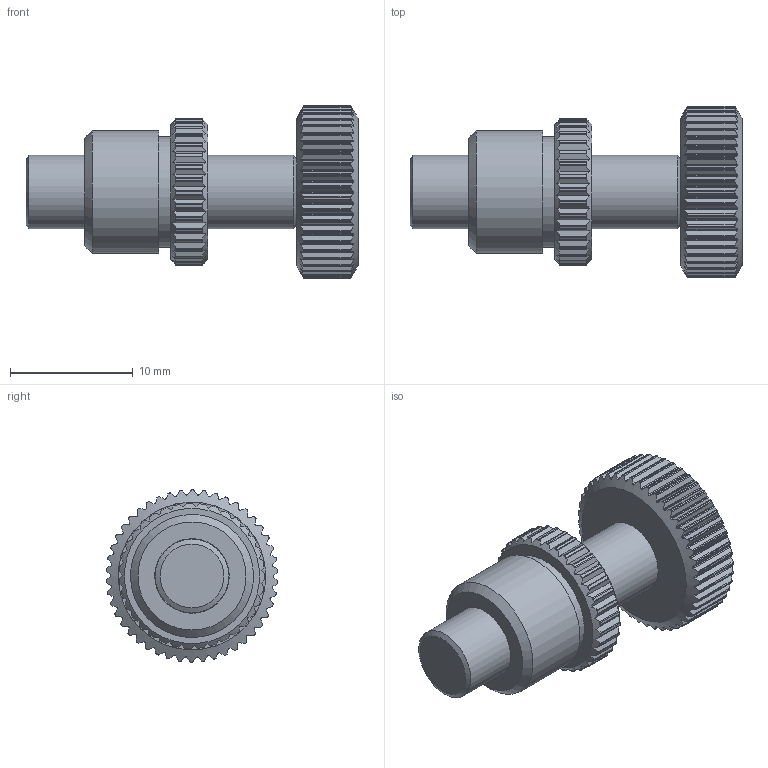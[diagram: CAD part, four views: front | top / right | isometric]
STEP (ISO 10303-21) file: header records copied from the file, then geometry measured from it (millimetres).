
FILE_DESCRIPTION(/* description */ (''),/* implementation_level */ '2;1');
FILE_NAME(/* name */ 'U:\KONSTRUKTORIAI\DOKUMENTACIJA\9\9S127BM\step\9S127BM-10.stp',/* time_stamp */ '2017-02-27T10:05:00+02:00',/* author */ ('dsgn33'),/* organization */ (''),/* preprocessor_version */ 'ST-DEVELOPER v15.2',/* originating_system */ 'Autodesk Inventor 2014',/* authorisation */ '');
FILE_SCHEMA (('AUTOMOTIVE_DESIGN { 1 0 10303 214 3 1 1 }'));
Length unit declared in the file: millimetre
Products named in the file (2): Part4; Assembly2
Bounding box: 27 x 13.98 x 14 mm (x, y, z)
Volume: 1798.5 mm3; surface area: 1444.6 mm2
Topology: 1 solids, 1 shells, 772 faces, 2252 edges, 1498 vertices
Faces by surface type: cylinder 388, plane 307, bspline 64, cone 13
Full cylindrical faces by diameter (mm): 1.5 x1, 3 x1, 3.1 x1, 6 x2, 9 x1, 10 x1
Entity records: 27398 total; most frequent: CARTESIAN_POINT 8743, ORIENTED_EDGE 4442, DIRECTION 3312, EDGE_CURVE 2221, VERTEX_POINT 1487, AXIS2_PLACEMENT_3D 1206, LINE 900, VECTOR 900
